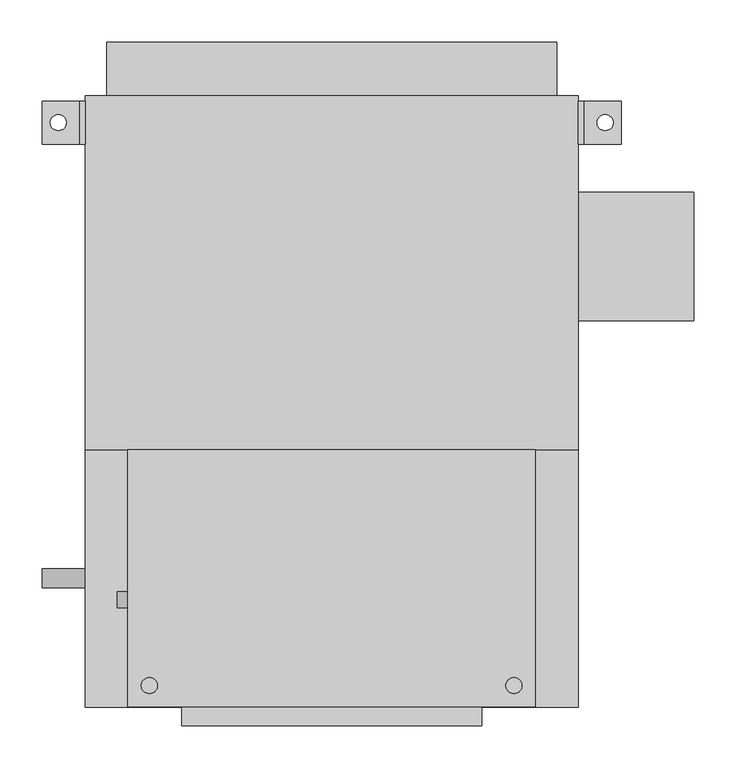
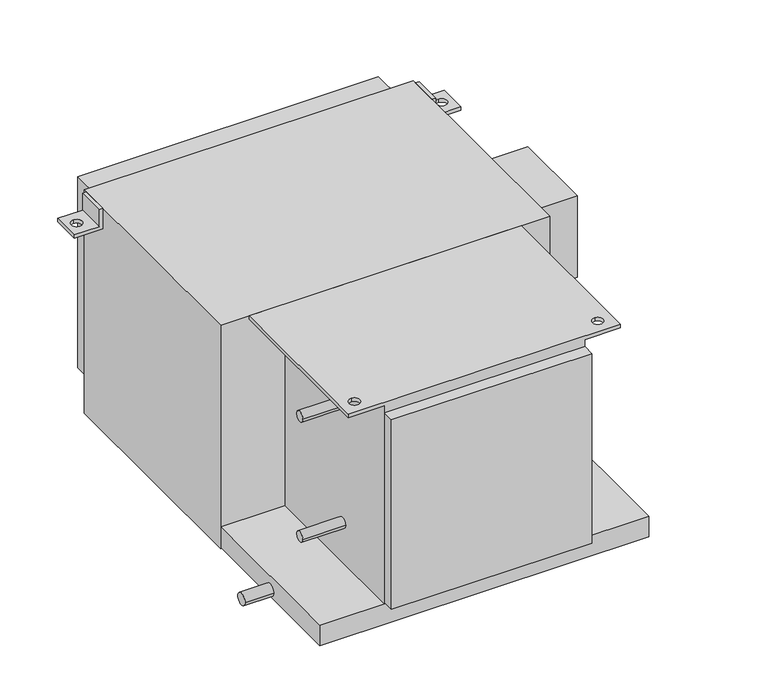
"""IFC4 building model written with IfcOpenShell, lengths in millimetres: proxy geometry, Concealed_High_Capacity_Horizontal_Fan_Coil_Unit_With_Plenum_-_42DCA_-_CARRIER_-_2-Pipe_Cool-EHeat_LH_2022 : Size 06 - 277v/60Hz/1Ph - 6 Row 4.0kW."""

from ifc_helpers import new_model, si_unit, point, frame, frame_2d, origin, place, context, project, spatial, polyline, circle_curve, trimmed, segment, composite_curve, outline, extrude, source, transform, mapped, element, save
from ifc_brep_helpers import plane_surface, revolved_surface, advanced_brep


def mechanical_equipment_a65b9fbb(model_context):
    return source(origin(), model_context, "Body", "SolidModel", [
        advanced_brep(
        [(-139.7, 327.025, -38.1), (-190.5, 327.025, -38.1), (-190.5, 327.025, -31.75), (-146.05, 327.025, -31.75), (-146.05, 327.025, 0.0), (-139.7, 327.025, 0.0), (-139.7, 276.225, -38.1), (-139.7, 276.225, 0.0), (-146.05, 276.225, 0.0), (-146.05, 276.225, -31.75), (-190.5, 276.225, -31.75), (-190.5, 276.225, -38.1), (-171.45, 292.1, -38.1), (-171.45, 311.15, -38.1), (-171.45, 311.15, -31.75), (-171.45, 292.1, -31.75)],
        [
            (0, 1),
            (1, 2),
            (2, 3),
            (3, 4),
            (4, 5),
            (5, 0),
            (6, 7),
            (7, 8),
            (8, 9),
            (9, 10),
            (10, 11),
            (11, 6),
            (0, 6),
            (11, 1),
            (12, 13, circle_curve(frame((-171.45, 301.625, -38.1), z_axis=(0.0, 0.0, 1.0), x_axis=(0.0, -1.0, 0.0)), 9.525)),
            (13, 12, circle_curve(frame((-171.45, 301.625, -38.1), z_axis=(0.0, 0.0, 1.0), x_axis=(0.0, -1.0, 0.0)), 9.525)),
            (10, 2),
            (9, 3),
            (14, 15, circle_curve(frame((-171.45, 301.625, -31.75), z_axis=(0.0, 0.0, -1.0), x_axis=(0.0, -1.0, 0.0)), 9.525)),
            (15, 14, circle_curve(frame((-171.45, 301.625, -31.75), z_axis=(0.0, 0.0, -1.0), x_axis=(0.0, -1.0, 0.0)), 9.525)),
            (8, 4),
            (7, 5),
            (14, 13),
            (12, 15),
        ],
        [
            plane_surface(frame((-139.7, 327.025, -38.1), z_axis=(0.0, 1.0, 0.0), x_axis=(-1.0, 0.0, 0.0))),
            plane_surface(frame((-139.7, 276.225, -38.1), z_axis=(0.0, -1.0, 0.0), x_axis=(1.0, 0.0, 0.0))),
            plane_surface(frame((-139.7, 327.025, -38.1), z_axis=(0.0, 0.0, -1.0), x_axis=(0.0, -1.0, 0.0))),
            plane_surface(frame((-190.5, 327.025, -38.1), z_axis=(-1.0, 0.0, 0.0), x_axis=(0.0, -1.0, 0.0))),
            plane_surface(frame((-190.5, 327.025, -31.75), z_axis=(0.0, 0.0, 1.0), x_axis=(0.0, -1.0, 0.0))),
            plane_surface(frame((-146.05, 327.025, -31.75), z_axis=(-1.0, 0.0, 0.0), x_axis=(0.0, -1.0, 0.0))),
            plane_surface(frame((-146.05, 327.025, 0.0), z_axis=(0.0, 0.0, 1.0), x_axis=(0.0, -1.0, 0.0))),
            plane_surface(frame((-139.7, 327.025, 0.0), z_axis=(1.0, 0.0, 0.0), x_axis=(0.0, -1.0, 0.0))),
            revolved_surface(polyline([(-171.45, 292.1, -38.1), (-171.45, 292.1, -31.75)]), (-171.45, 301.625, -31.75), (0.0, 0.0, -1.0)),
        ],
        [
            (0, [[1, 2, 3, 4, 5, 6]]),
            (1, [[7, 8, 9, 10, 11, 12]]),
            (2, [[-1, 13, -12, 14], [15, 16]]),
            (3, [[-2, -14, -11, 17]]),
            (4, [[-3, -17, -10, 18], [19, 20]]),
            (5, [[-4, -18, -9, 21]]),
            (6, [[-5, -21, -8, 22]]),
            (7, [[-6, -22, -7, -13]]),
            (8, [[23, -15, 24, -19]]),
            (8, [[-23, -20, -24, -16]]),
        ],
    ),
        advanced_brep(
        [(444.5, 327.025, -38.1), (444.5, 327.025, 0.0), (450.85, 327.025, 0.0), (450.85, 327.025, -31.75), (495.3, 327.025, -31.75), (495.3, 327.025, -38.1), (444.5, 276.225, -38.1), (495.3, 276.225, -38.1), (495.3, 276.225, -31.75), (450.85, 276.225, -31.75), (450.85, 276.225, 0.0), (444.5, 276.225, 0.0), (476.25, 311.15, -31.75), (476.25, 292.1, -31.75), (476.25, 292.1, -38.1), (476.25, 311.15, -38.1)],
        [
            (0, 1),
            (1, 2),
            (2, 3),
            (3, 4),
            (4, 5),
            (5, 0),
            (6, 7),
            (7, 8),
            (8, 9),
            (9, 10),
            (10, 11),
            (11, 6),
            (0, 6),
            (11, 1),
            (10, 2),
            (9, 3),
            (8, 4),
            (12, 13, circle_curve(frame((476.25, 301.625, -31.75), z_axis=(0.0, 0.0, -1.0), x_axis=(0.0, -1.0, 0.0)), 9.525)),
            (13, 12, circle_curve(frame((476.25, 301.625, -31.75), z_axis=(0.0, 0.0, -1.0), x_axis=(0.0, -1.0, 0.0)), 9.525)),
            (7, 5),
            (14, 15, circle_curve(frame((476.25, 301.625, -38.1), z_axis=(0.0, 0.0, 1.0), x_axis=(0.0, -1.0, 0.0)), 9.525)),
            (15, 14, circle_curve(frame((476.25, 301.625, -38.1), z_axis=(0.0, 0.0, 1.0), x_axis=(0.0, -1.0, 0.0)), 9.525)),
            (12, 15),
            (14, 13),
        ],
        [
            plane_surface(frame((-139.7, 327.025, -38.1), z_axis=(0.0, 1.0, 0.0), x_axis=(-1.0, 0.0, 0.0))),
            plane_surface(frame((-139.7, 276.225, -38.1), z_axis=(0.0, -1.0, 0.0), x_axis=(1.0, 0.0, 0.0))),
            plane_surface(frame((444.5, 327.025, -38.1), z_axis=(-1.0, 0.0, 0.0), x_axis=(0.0, -1.0, 0.0))),
            plane_surface(frame((444.5, 327.025, 0.0), z_axis=(0.0, 0.0, 1.0), x_axis=(0.0, -1.0, 0.0))),
            plane_surface(frame((450.85, 327.025, 0.0), z_axis=(1.0, 0.0, 0.0), x_axis=(0.0, -1.0, 0.0))),
            plane_surface(frame((450.85, 327.025, -31.75), z_axis=(0.0, 0.0, 1.0), x_axis=(0.0, -1.0, 0.0))),
            plane_surface(frame((495.3, 327.025, -31.75), z_axis=(1.0, 0.0, 0.0), x_axis=(0.0, -1.0, 0.0))),
            plane_surface(frame((495.3, 327.025, -38.1), z_axis=(0.0, 0.0, -1.0), x_axis=(0.0, -1.0, 0.0))),
            revolved_surface(polyline([(476.25, 292.1, -38.1), (476.25, 292.1, -31.75)]), (476.25, 301.625, -31.75), (0.0, 0.0, -1.0)),
        ],
        [
            (0, [[1, 2, 3, 4, 5, 6]]),
            (1, [[7, 8, 9, 10, 11, 12]]),
            (2, [[-1, 13, -12, 14]]),
            (3, [[-2, -14, -11, 15]]),
            (4, [[-3, -15, -10, 16]]),
            (5, [[-4, -16, -9, 17], [18, 19]]),
            (6, [[-5, -17, -8, 20]]),
            (7, [[-6, -20, -7, -13], [21, 22]]),
            (8, [[23, -21, 24, -18]]),
            (8, [[-23, -19, -24, -22]]),
        ],
    ),
        advanced_brep(
        [(-88.9, -85.725, -6.35), (-25.4, -85.725, -6.35), (-25.4, -390.525, -6.35), (-88.9, -390.525, -6.35), (-63.5, -355.6, -6.35), (-63.5, -374.65, -6.35), (393.7, -85.725, -6.35), (393.7, -390.525, -6.35), (330.2, -390.525, -6.35), (330.2, -85.725, -6.35), (368.3, -355.6, -6.35), (368.3, -374.65, -6.35), (-88.9, -85.725, 0.0), (-88.9, -390.525, 0.0), (393.7, -390.525, 0.0), (393.7, -85.725, 0.0), (-63.5, -374.65, 0.0), (-63.5, -355.6, 0.0), (368.3, -374.65, 0.0), (368.3, -355.6, 0.0), (-25.4, -390.525, -377.825), (330.2, -390.525, -377.825), (330.2, -85.725, -377.825), (-25.4, -85.725, -377.825)],
        [
            (0, 1),
            (1, 2),
            (2, 3),
            (3, 0),
            (4, 5, circle_curve(frame((-63.5, -365.125, -6.35), z_axis=(0.0, 0.0, 1.0), x_axis=(0.0, 1.0, 0.0)), 9.525)),
            (5, 4, circle_curve(frame((-63.5, -365.125, -6.35), z_axis=(0.0, 0.0, 1.0), x_axis=(0.0, 1.0, 0.0)), 9.525)),
            (6, 7),
            (7, 8),
            (8, 9),
            (9, 6),
            (10, 11, circle_curve(frame((368.3, -365.125, -6.35), z_axis=(0.0, 0.0, 1.0), x_axis=(0.0, 1.0, 0.0)), 9.525)),
            (11, 10, circle_curve(frame((368.3, -365.125, -6.35), z_axis=(0.0, 0.0, 1.0), x_axis=(0.0, 1.0, 0.0)), 9.525)),
            (12, 13),
            (13, 14),
            (14, 15),
            (15, 12),
            (16, 17, circle_curve(frame((-63.5, -365.125, 0.0), z_axis=(0.0, 0.0, -1.0), x_axis=(0.0, 1.0, 0.0)), 9.525)),
            (17, 16, circle_curve(frame((-63.5, -365.125, 0.0), z_axis=(0.0, 0.0, -1.0), x_axis=(0.0, 1.0, 0.0)), 9.525)),
            (18, 19, circle_curve(frame((368.3, -365.125, 0.0), z_axis=(0.0, 0.0, -1.0), x_axis=(0.0, 1.0, 0.0)), 9.525)),
            (19, 18, circle_curve(frame((368.3, -365.125, 0.0), z_axis=(0.0, 0.0, -1.0), x_axis=(0.0, 1.0, 0.0)), 9.525)),
            (3, 13),
            (12, 0),
            (2, 20),
            (20, 21),
            (21, 8),
            (7, 14),
            (15, 6),
            (9, 22),
            (22, 23),
            (23, 1),
            (22, 21),
            (20, 23),
            (16, 5),
            (4, 17),
            (18, 11),
            (10, 19),
        ],
        [
            plane_surface(frame((-88.9, -85.725, -6.35), z_axis=(0.0, 0.0, -1.0), x_axis=(0.0, 1.0, 0.0))),
            plane_surface(frame((-88.9, -85.725, 0.0), z_axis=(0.0, 0.0, 1.0), x_axis=(0.0, -1.0, 0.0))),
            plane_surface(frame((-88.9, -85.725, 0.0), z_axis=(-1.0, 0.0, 0.0), x_axis=(0.0, 0.0, -1.0))),
            plane_surface(frame((-88.9, -390.525, 0.0), z_axis=(0.0, -1.0, 0.0), x_axis=(0.0, 0.0, -1.0))),
            plane_surface(frame((-25.4, -85.725, 0.0), z_axis=(0.0, 1.0, 0.0), x_axis=(0.0, 0.0, -1.0))),
            plane_surface(frame((393.7, -390.525, 0.0), z_axis=(1.0, 0.0, 0.0), x_axis=(0.0, 0.0, -1.0))),
            plane_surface(frame((-25.4, -85.725, -377.825), z_axis=(0.0, 0.0, -1.0), x_axis=(1.0, 0.0, 0.0))),
            plane_surface(frame((-25.4, -85.725, 0.0), z_axis=(-1.0, 0.0, 0.0), x_axis=(0.0, 0.0, -1.0))),
            plane_surface(frame((330.2, -390.525, 0.0), z_axis=(1.0, 0.0, 0.0), x_axis=(0.0, 0.0, -1.0))),
            revolved_surface(polyline([(-63.5, -355.6, -6.35), (-63.5, -355.6, 0.0)]), (-63.5, -365.125, 0.0), (0.0, 0.0, -1.0)),
            revolved_surface(polyline([(368.3, -355.6, -6.35), (368.3, -355.6, 0.0)]), (368.3, -365.125, 0.0), (0.0, 0.0, -1.0)),
        ],
        [
            (0, [[1, 2, 3, 4], [5, 6]]),
            (0, [[7, 8, 9, 10], [11, 12]]),
            (1, [[13, 14, 15, 16], [17, 18], [19, 20]]),
            (2, [[-4, 21, -13, 22]]),
            (3, [[-3, 23, 24, 25, -8, 26, -14, -21]]),
            (4, [[-1, -22, -16, 27, -10, 28, 29, 30]]),
            (5, [[-7, -27, -15, -26]]),
            (6, [[31, -24, 32, -29]]),
            (7, [[-32, -23, -2, -30]]),
            (8, [[-31, -28, -9, -25]]),
            (9, [[33, -5, 34, -17]]),
            (9, [[-33, -18, -34, -6]]),
            (10, [[35, -11, 36, -19]]),
            (10, [[-35, -20, -36, -12]]),
        ],
    ),
        extrude(outline(polyline([(-114.3, 396.875), (419.1, 396.875), (419.1, 333.375), (-114.3, 333.375), (-114.3, 396.875)])), frame((0.0, 0.0, -381.0), z_axis=(0.0, 0.0, 1.0), x_axis=(1.0, 0.0, 0.0)), (0.0, 0.0, 1.0), 358.775),
        extrude(outline(composite_curve([segment(trimmed(circle_curve(frame_2d((-263.525, -76.2)), 9.525), [point((-273.05, -76.2))], [point((-254.0, -76.2))], False, "CARTESIAN"), True, "CONTINUOUS"), segment(trimmed(circle_curve(frame_2d((-263.525, -76.2)), 9.525), [point((-254.0, -76.2))], [point((-273.05, -76.2))], False, "CARTESIAN"), True, "CONTINUOUS")], self_intersect=False)), frame((-101.6, 0.0, 0.0), z_axis=(1.0, 0.0, 0.0), x_axis=(0.0, 1.0, 0.0)), (0.0, 0.0, 1.0), 76.2),
        extrude(outline(composite_curve([segment(trimmed(circle_curve(frame_2d((-263.525, -301.625)), 9.525), [point((-273.05, -301.625))], [point((-254.0, -301.625))], False, "CARTESIAN"), True, "CONTINUOUS"), segment(trimmed(circle_curve(frame_2d((-263.525, -301.625)), 9.525), [point((-254.0, -301.625))], [point((-273.05, -301.625))], False, "CARTESIAN"), True, "CONTINUOUS")], self_intersect=False)), frame((-101.6, 0.0, 0.0), z_axis=(1.0, 0.0, 0.0), x_axis=(0.0, 1.0, 0.0)), (0.0, 0.0, 1.0), 76.2),
        extrude(outline(composite_curve([segment(trimmed(circle_curve(frame_2d((-238.125, -403.225)), 11.1125), [point((-249.2375, -403.225))], [point((-227.0125, -403.225))], False, "CARTESIAN"), True, "CONTINUOUS"), segment(trimmed(circle_curve(frame_2d((-238.125, -403.225)), 11.1125), [point((-227.0125, -403.225))], [point((-249.2375, -403.225))], False, "CARTESIAN"), True, "CONTINUOUS")], self_intersect=False)), frame((-190.5, 0.0, 0.0), z_axis=(1.0, 0.0, 0.0), x_axis=(0.0, 1.0, 0.0)), (0.0, 0.0, 1.0), 50.8),
        extrude(outline(polyline([(581.025, 219.075), (581.025, 66.675), (444.5, 66.675), (444.5, 219.075), (581.025, 219.075)])), frame((0.0, 0.0, -254.0), z_axis=(0.0, 0.0, 1.0), x_axis=(1.0, 0.0, 0.0)), (0.0, 0.0, 1.0), 152.4),
        extrude(outline(polyline([(330.2, -412.75), (-25.4, -412.75), (-25.4, -390.525), (330.2, -390.525), (330.2, -412.75)])), frame((0.0, 0.0, -374.65), z_axis=(0.0, 0.0, 1.0), x_axis=(1.0, 0.0, 0.0)), (0.0, 0.0, 1.0), 355.6),
        extrude(outline(polyline([(444.5, -85.725), (-139.7, -85.725), (-139.7, 333.375), (444.5, 333.375), (444.5, -85.725)])), frame((0.0, 0.0, -419.1), z_axis=(0.0, 0.0, 1.0), x_axis=(1.0, 0.0, 0.0)), (0.0, 0.0, 1.0), 419.1),
        extrude(outline(polyline([(444.5, -85.725), (444.5, -390.525), (-139.7, -390.525), (-139.7, -85.725), (444.5, -85.725)])), frame((0.0, 0.0, -415.925), z_axis=(0.0, 0.0, 1.0), x_axis=(1.0, 0.0, 0.0)), (0.0, 0.0, 1.0), 38.1),
    ])


if __name__ == "__main__":
    model = new_model("IFC4")
    model_context = context("Model", 3, world=origin())
    ifc_project = project(units=[si_unit("LENGTHUNIT", "METRE", prefix="MILLI")], contexts=[model_context])
    site = spatial("IfcSite", under=ifc_project)
    building = spatial("IfcBuilding", under=site)
    placement = place(None, origin())
    mechanical_equipment_shape = mechanical_equipment_a65b9fbb(model_context)
    element("IfcBuildingElementProxy", 1, Name="Concealed_High_Capacity_Horizontal_Fan_Coil_Unit_With_Plenum_-_42DCA_-_CARRIER_-_2-Pipe_Cool-EHeat_LH_2022 : Size 06 - 277v/60Hz/1Ph - 6 Row 4.0kW", ObjectType="Concealed_High_Capacity_Horizontal_Fan_Coil_Unit_With_Plenum_-_42DCA_-_CARRIER_-_2-Pipe_Cool-EHeat_LH_2022 : Size 06 - 277v/60Hz/1Ph - 6 Row 4.0kW", at=placement, inside=building, context=model_context, shape_type="MappedRepresentation", body=[
        mapped(mechanical_equipment_shape, transform((0.0, 0.0, 0.0), x_axis=(1.0, 0.0, 0.0), y_axis=(0.0, 1.0, 0.0), z_axis=(0.0, 0.0, 1.0))),
    ])
    save(model, "model.ifc")
